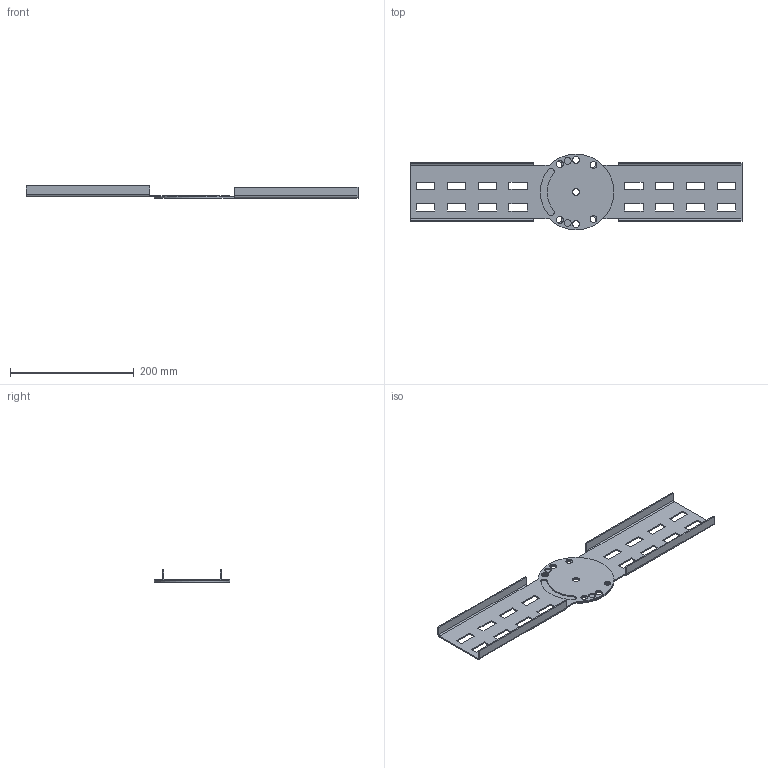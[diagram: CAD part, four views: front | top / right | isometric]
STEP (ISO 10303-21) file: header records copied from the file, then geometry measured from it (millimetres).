
FILE_DESCRIPTION(('Creo Elements/Direct Modeling STEP Export'),'2;1');
FILE_NAME('WPCV10-HDG.stp','2020-12-14T12:51:09',(''),(''),'PTC Creo Elements/Direct Modeling STEP processor for AP214 (Solid Model)','PTC Creo Elements/Direct Modeling 19.0C 15-Aug-2015 (C) Parametric Technology GmbH','');
FILE_SCHEMA(('AUTOMOTIVE_DESIGN { 1 0 10303 214 1 1 1 1 }'));
Length unit declared in the file: millimetre
Products named in the file (3): WPVV-R100; WPVV-L100; WPCV10-HDG
Assembly tree (2 placements, depth 2):
  WPCV10-HDG
    WPVV-L100
    WPVV-R100
Bounding box: 537 x 122.53 x 20 mm (x, y, z)
Volume: 133499.6 mm3; surface area: 141710.9 mm2
Topology: 2 solids, 2 shells, 144 faces, 420 edges, 280 vertices
Faces by surface type: plane 90, cylinder 54
Entity records: 4779 total; most frequent: ORIENTED_EDGE 840, CARTESIAN_POINT 803, DIRECTION 742, EDGE_CURVE 420, VECTOR 304, LINE 304, VERTEX_POINT 280, AXIS2_PLACEMENT_3D 219
